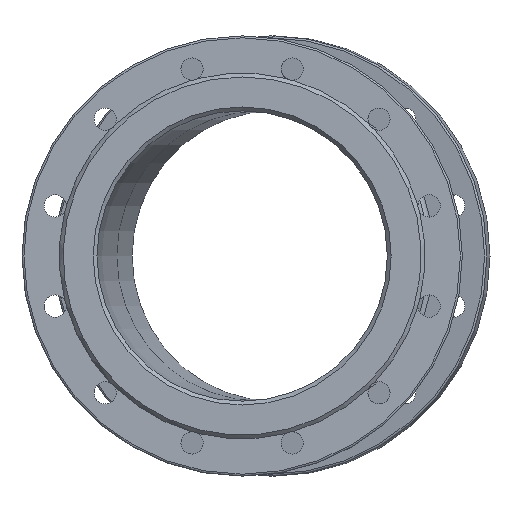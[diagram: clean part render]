
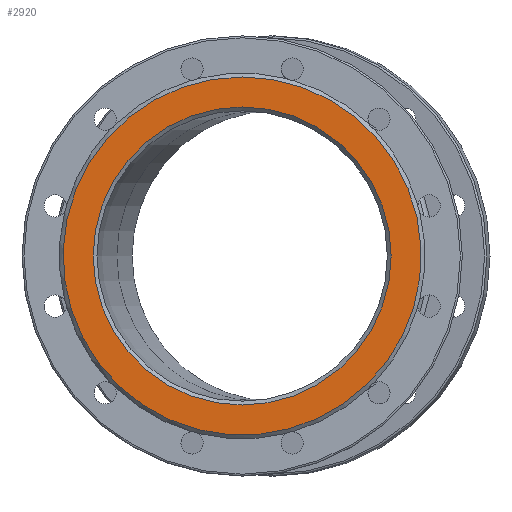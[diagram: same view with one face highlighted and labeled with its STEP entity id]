
A CAD part, left-side view. The second image highlights one B-rep face of the part: STEP entity #2920.
In plain terms, the highlighted planar face has unit normal (-1, 0, 0).
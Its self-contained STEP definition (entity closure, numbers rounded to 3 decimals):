
#9 = CARTESIAN_POINT ( 'NONE',  ( 0., 0., 0. ) ) ;
#143 = ORIENTED_EDGE ( 'NONE', *, *, #1852, .T. ) ;
#276 = EDGE_LOOP ( 'NONE', ( #143 ) ) ;
#445 = AXIS2_PLACEMENT_3D ( 'NONE', #9, #2674, #2168 ) ;
#687 = DIRECTION ( 'NONE',  ( 1., 0., 0. ) ) ;
#946 = CIRCLE ( 'NONE', #445, 185. ) ;
#1007 = DIRECTION ( 'NONE',  ( 0., 0., -1. ) ) ;
#1033 = CARTESIAN_POINT ( 'NONE',  ( 0., 0., 185. ) ) ;
#1193 = VERTEX_POINT ( 'NONE', #1231 ) ;
#1231 = CARTESIAN_POINT ( 'NONE',  ( 0., 0., -154. ) ) ;
#1420 = DIRECTION ( 'NONE',  ( 0., 0., -1. ) ) ;
#1725 = CIRCLE ( 'NONE', #2178, 154. ) ;
#1741 = FACE_OUTER_BOUND ( 'NONE', #1942, .T. ) ;
#1852 = EDGE_CURVE ( 'NONE', #1193, #1193, #1725, .T. ) ;
#1942 = EDGE_LOOP ( 'NONE', ( #3431 ) ) ;
#1998 = FACE_BOUND ( 'NONE', #276, .T. ) ;
#2011 = VERTEX_POINT ( 'NONE', #1033 ) ;
#2168 = DIRECTION ( 'NONE',  ( 0., 0., 1. ) ) ;
#2178 = AXIS2_PLACEMENT_3D ( 'NONE', #2244, #2753, #1420 ) ;
#2244 = CARTESIAN_POINT ( 'NONE',  ( 0., 0., 0. ) ) ;
#2674 = DIRECTION ( 'NONE',  ( -1., 0., 0. ) ) ;
#2753 = DIRECTION ( 'NONE',  ( 1., 0., 0. ) ) ;
#2807 = PLANE ( 'NONE',  #3287 ) ;
#2920 = ADVANCED_FACE ( 'NONE', ( #1998, #1741 ), #2807, .F. ) ;
#3015 = CARTESIAN_POINT ( 'NONE',  ( 0., 150., 0. ) ) ;
#3191 = EDGE_CURVE ( 'NONE', #2011, #2011, #946, .T. ) ;
#3287 = AXIS2_PLACEMENT_3D ( 'NONE', #3015, #687, #1007 ) ;
#3431 = ORIENTED_EDGE ( 'NONE', *, *, #3191, .T. ) ;
